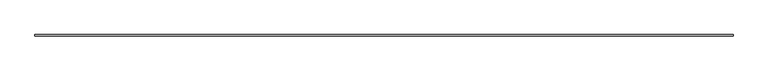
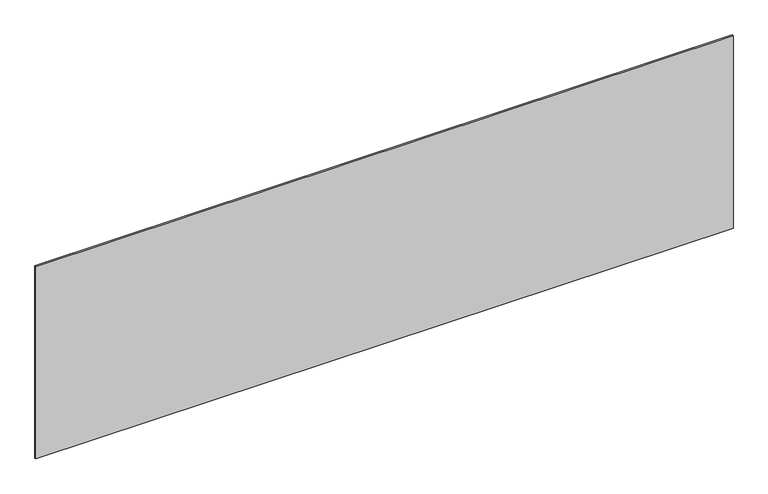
"""IFC4 building model written with IfcOpenShell, lengths in millimetres: plate geometry, システム パネル : 標準."""

import ifcopenshell
import ifcopenshell.guid

model = None  # the IFC model being written
_history = None  # IfcOwnerHistory: only IFC2X3 demands one
_inside = {}  # id of a spatial element -> (the spatial element, [elements in it])
_under = {}  # id of a project, library or spatial element -> (it, [spatial elements below it])
_declared = {}  # id of a project -> (the project, [libraries it declares])
_typed = {}  # id of a type object -> (the type object, [elements of that type])
_made_of = {}  # id of a material, layer set ... -> (it, [elements and type objects made of it])


def new_model(schema):
    """Start an empty IFC model of exactly this schema.

    Asked for "IFC4X3", IfcOpenShell would pick the latest addendum, in which some entities
    have other attributes; the version numbers below select the first issue.
    IFC2X3 requires an IfcOwnerHistory on every rooted entity: one is made here for all.
    """
    global model, _history
    if schema == "IFC4X3":
        model = ifcopenshell.file(schema_version=(4, 3, 0, 0))
    else:
        model = ifcopenshell.file(schema=schema)
    _inside.clear()
    _under.clear()
    _declared.clear()
    _typed.clear()
    _made_of.clear()
    _history = None
    if model.schema == "IFC2X3":
        org = make("IfcOrganization", Name="unknown")
        user = make(
            "IfcPersonAndOrganization",
            ThePerson=make("IfcPerson", FamilyName="unknown"),
            TheOrganization=org,
        )
        app = make(
            "IfcApplication",
            ApplicationDeveloper=org,
            Version="unknown",
            ApplicationFullName="unknown",
            ApplicationIdentifier="unknown",
        )
        _history = make(
            "IfcOwnerHistory",
            OwningUser=user,
            OwningApplication=app,
            ChangeAction="ADDED",
            CreationDate=0,
        )
    return model


def make(cls, **values):
    """One entity of the class cls with the attributes given. An attribute that is None is left unset."""
    return model.create_entity(
        cls, **{name: value for name, value in values.items() if value is not None}
    )


def rooted(cls, **values):
    """An entity with a GlobalId (a new one), such as an element, a storey or a relation."""
    return make(cls, GlobalId=ifcopenshell.guid.new(), OwnerHistory=_history, **values)


def si_unit(unit_type, name, prefix=None):
    """IfcSIUnit, for example si_unit("LENGTHUNIT", "METRE", prefix="MILLI")."""
    return make("IfcSIUnit", UnitType=unit_type, Prefix=prefix, Name=name)


def assignment(units):
    """IfcUnitAssignment: the units of a project."""
    return None if units is None else make("IfcUnitAssignment", Units=units)


def point(xyz):
    """IfcCartesianPoint."""
    return None if xyz is None else make("IfcCartesianPoint", Coordinates=xyz)


def direction(xyz):
    """IfcDirection."""
    return None if xyz is None else make("IfcDirection", DirectionRatios=xyz)


def frame(location, z_axis=None, x_axis=None):
    """IfcAxis2Placement3D, a coordinate frame: its origin and axes. An axis left out is left unset."""
    return make(
        "IfcAxis2Placement3D",
        Location=point(location),
        Axis=direction(z_axis),
        RefDirection=direction(x_axis),
    )


def origin():
    """The frame at (0, 0, 0) with its axes left unset."""
    return frame((0.0, 0.0, 0.0))


def origin_with_axes():
    """The frame at (0, 0, 0) with the z axis (0, 0, 1) and the x axis (1, 0, 0) written out."""
    return frame((0.0, 0.0, 0.0), z_axis=(0.0, 0.0, 1.0), x_axis=(1.0, 0.0, 0.0))


def place(relative_to, where):
    """IfcLocalPlacement: puts the frame where relative to a parent placement (None: the world)."""
    return make(
        "IfcLocalPlacement", PlacementRelTo=relative_to, RelativePlacement=where
    )


def context(
    kind, dimensions, precision=None, world=None, true_north=None, identifier=None
):
    """IfcGeometricRepresentationContext, for example the 3D "Model" context."""
    return make(
        "IfcGeometricRepresentationContext",
        ContextIdentifier=identifier,
        ContextType=kind,
        CoordinateSpaceDimension=dimensions,
        Precision=precision,
        WorldCoordinateSystem=world,
        TrueNorth=true_north,
    )


def project(units=None, contexts=None):
    """IfcProject with its units and contexts."""
    return rooted(
        "IfcProject",
        Name="project",
        RepresentationContexts=contexts,
        UnitsInContext=assignment(units),
    )


def spatial(cls, under=None, at=None, **own):
    """A site, building, storey or space (cls), placed at a placement, below another one or the project."""
    s = rooted(cls, ObjectPlacement=at, **own)
    if under is not None:
        _under.setdefault(under.id(), (under, []))[1].append(s)
    return s


def polyline(points):
    """IfcPolyline through the points."""
    return make("IfcPolyline", Points=[point(p) for p in points])


def outline(outer, holes=None, kind="AREA"):
    """IfcArbitraryClosedProfileDef: a profile drawn as a closed curve; with holes, ...WithVoids."""
    if holes is None:
        return make("IfcArbitraryClosedProfileDef", ProfileType=kind, OuterCurve=outer)
    return make(
        "IfcArbitraryProfileDefWithVoids",
        ProfileType=kind,
        OuterCurve=outer,
        InnerCurves=holes,
    )


def extrude(swept, where, along, depth):
    """IfcExtrudedAreaSolid: the profile swept, set in the frame where, extruded along a direction by depth."""
    return make(
        "IfcExtrudedAreaSolid",
        SweptArea=swept,
        Position=where,
        ExtrudedDirection=direction(along),
        Depth=depth,
    )


def shape(context_of_items, identifier, shape_type, items):
    """IfcShapeRepresentation: the items that make up one representation, for example the "Body"."""
    return make(
        "IfcShapeRepresentation",
        ContextOfItems=context_of_items,
        RepresentationIdentifier=identifier,
        RepresentationType=shape_type,
        Items=items,
    )


def source(mapping_origin, context_of_items, identifier, shape_type, items):
    """IfcRepresentationMap: a shape defined once, which mapped items show again and again."""
    return make(
        "IfcRepresentationMap",
        MappingOrigin=mapping_origin,
        MappedRepresentation=shape(context_of_items, identifier, shape_type, items),
    )


def transform(
    local_origin,
    x_axis=None,
    y_axis=None,
    z_axis=None,
    scale=None,
    scale2=None,
    scale3=None,
    uniform=True,
):
    """IfcCartesianTransformationOperator3D, or its non-uniform kind. x_axis, y_axis, z_axis: its Axis1, 2, 3."""
    if uniform:
        return make(
            "IfcCartesianTransformationOperator3D",
            Axis1=direction(x_axis),
            Axis2=direction(y_axis),
            LocalOrigin=point(local_origin),
            Scale=scale,
            Axis3=direction(z_axis),
        )
    return make(
        "IfcCartesianTransformationOperator3DnonUniform",
        Axis1=direction(x_axis),
        Axis2=direction(y_axis),
        LocalOrigin=point(local_origin),
        Scale=scale,
        Axis3=direction(z_axis),
        Scale2=scale2,
        Scale3=scale3,
    )


def mapped(mapping_source, mapping_target):
    """IfcMappedItem: shows the shape of a source again, moved by a transform."""
    return make(
        "IfcMappedItem", MappingSource=mapping_source, MappingTarget=mapping_target
    )


def made_of(thing, what):
    """Note that an element or type object is made of a material, layer set ...; save() writes the relation."""
    if what is not None:
        _made_of.setdefault(what.id(), (what, []))[1].append(thing)
    return thing


def element(
    cls,
    number,
    at=None,
    inside=None,
    cuts=None,
    type_object=None,
    material=None,
    context=None,
    identifier="Body",
    shape_type=None,
    held_by="IfcProductDefinitionShape",
    body=None,
    shapes=None,
    **own,
):
    """One element of the class cls, such as IfcWall. Its Tag is "e" and its number.

    at: its placement. inside: the storey or other place that contains it. cuts: it is an
    opening in that element (IfcRelVoidsElement). A single representation is given by context,
    identifier, shape_type and body (its items); several are given by shapes. held_by: the class
    of the entity that holds the representations. save() writes the other relations.
    """
    e = rooted(cls, Tag="e%d" % number, ObjectPlacement=at, **own)
    if body is not None:
        shapes = [shape(context, identifier, shape_type, body)]
    if shapes is not None:
        e.Representation = make(held_by, Representations=shapes)
    if inside is not None:
        _inside.setdefault(inside.id(), (inside, []))[1].append(e)
    if cuts is not None:
        rooted(
            "IfcRelVoidsElement", RelatingBuildingElement=cuts, RelatedOpeningElement=e
        )
    if type_object is not None:
        _typed.setdefault(type_object.id(), (type_object, []))[1].append(e)
    return made_of(e, material)


def aggregate(whole, parts):
    """IfcRelAggregates: a whole, such as a stair, and the parts it consists of."""
    return rooted("IfcRelAggregates", RelatingObject=whole, RelatedObjects=parts)


def save(model, path):
    """Write the relations noted so far, then the file.

    IfcRelAggregates (storeys below a building ...), IfcRelContainedInSpatialStructure (elements
    in a storey), IfcRelDefinesByType, IfcRelAssociatesMaterial and IfcRelDeclares: one each for
    every whole, place, type object, material and project.
    """
    for whole, parts in _under.values():
        aggregate(whole, parts)
    for where, things in _inside.values():
        rooted(
            "IfcRelContainedInSpatialStructure",
            RelatedElements=things,
            RelatingStructure=where,
        )
    for kind, things in _typed.values():
        rooted("IfcRelDefinesByType", RelatedObjects=things, RelatingType=kind)
    for what, things in _made_of.values():
        rooted("IfcRelAssociatesMaterial", RelatedObjects=things, RelatingMaterial=what)
    for by, libraries in _declared.values():
        rooted("IfcRelDeclares", RelatingContext=by, RelatedDefinitions=libraries)
    model.write(path)


def plate_ac0f2cd7(model_context):
    return source(origin(), model_context, "Body", "SweptSolid", [
        extrude(outline(polyline([(2281.6666667, -5.0), (-2281.6666667, -5.0), (-2281.6666667, 5.0), (2281.6666667, 5.0), (2281.6666667, -5.0)])), origin_with_axes(), (0.0, 0.0, 1.0), 1330.1743306),
    ])


if __name__ == "__main__":
    model = new_model("IFC4")
    model_context = context("Model", 3, world=origin())
    ifc_project = project(units=[si_unit("LENGTHUNIT", "METRE", prefix="MILLI")], contexts=[model_context])
    site = spatial("IfcSite", under=ifc_project)
    building = spatial("IfcBuilding", under=site)
    placement = place(None, origin())
    plate_shape = plate_ac0f2cd7(model_context)
    element("IfcPlate", 1, ObjectType="システム パネル : 標準", at=placement, inside=building, context=model_context, shape_type="MappedRepresentation", body=[
        mapped(plate_shape, transform((0.0, 0.0, 0.0), x_axis=(1.0, 0.0, 0.0), y_axis=(0.0, 1.0, 0.0), z_axis=(0.0, 0.0, 1.0))),
    ])
    save(model, "model.ifc")
